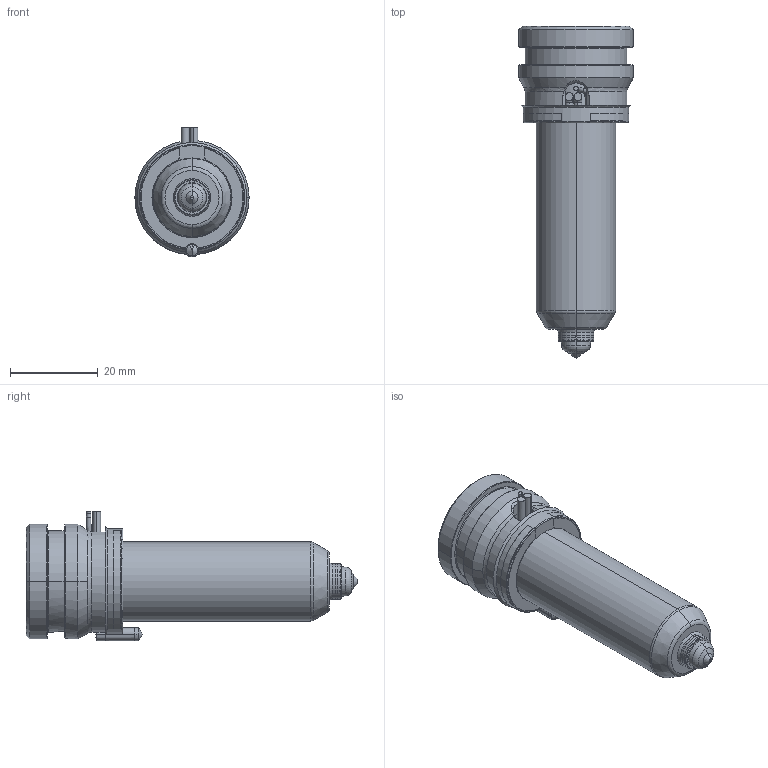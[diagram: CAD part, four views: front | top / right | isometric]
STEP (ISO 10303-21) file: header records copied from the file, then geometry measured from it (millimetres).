
FILE_DESCRIPTION((''),'2;1');
FILE_NAME('TH18057_5-A-1B15-PK-JG','2023-12-14T',('umhib'),('Thermoplay S.p.A.'),'PRO/ENGINEER BY PARAMETRIC TECHNOLOGY CORPORATION, 2017170','PRO/ENGINEER BY PARAMETRIC TECHNOLOGY CORPORATION, 2017170','');
FILE_SCHEMA(('CONFIG_CONTROL_DESIGN'));
Length unit declared in the file: millimetre
Products named in the file (1): TH18057_5-A-1B15-PK-JG
Bounding box: 26 x 75.5 x 29.5 mm (x, y, z)
Volume: 16895.4 mm3; surface area: 12337 mm2
Topology: 1 solids, 2 shells, 398 faces, 1036 edges, 643 vertices
Faces by surface type: cylinder 151, plane 85, cone 68, torus 56, bspline 24, sphere 12, extrusion 2
Entity records: 18093 total; most frequent: CARTESIAN_POINT 6125, ORIENTED_EDGE 2048, DIRECTION 2033, EDGE_CURVE 1026, AXIS2_PLACEMENT_3D 816, VERTEX_POINT 643, CIRCLE 443, EDGE_LOOP 418
